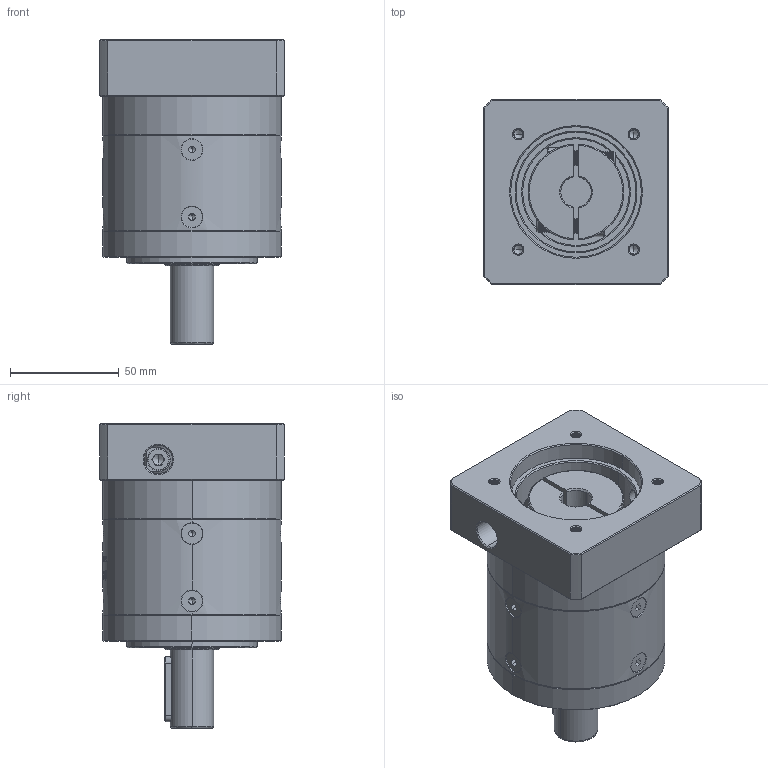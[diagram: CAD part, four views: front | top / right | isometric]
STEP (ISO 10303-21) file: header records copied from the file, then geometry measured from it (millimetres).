
FILE_DESCRIPTION (( 'STEP AP214' ), '1' );
FILE_NAME ('ZE80-D20-L1-14-60-75-M5.step', '2022-05-08T05:49:49', ( '' ), ( 'Microsoft' ), 'SwSTEP 2.0', 'SolidWorks 2016', '' );
FILE_SCHEMA (( 'AUTOMOTIVE_DESIGN' ));
Length unit declared in the file: millimetre
Products named in the file (1): ZE80-D20-L1-14-60-75-M5
Bounding box: 85 x 85 x 140 mm (x, y, z)
Volume: 530108.9 mm3; surface area: 84680.4 mm2
Topology: 13 solids, 13 shells, 2073 faces, 5403 edges, 3419 vertices
Faces by surface type: plane 891, cylinder 500, cone 333, bspline 332, torus 17
Entity records: 118779 total; most frequent: CARTESIAN_POINT 49455, ORIENTED_EDGE 10730, DIRECTION 8265, EDGE_CURVE 5365, VERTEX_POINT 3419, VECTOR 2869, LINE 2869, AXIS2_PLACEMENT_3D 2698
